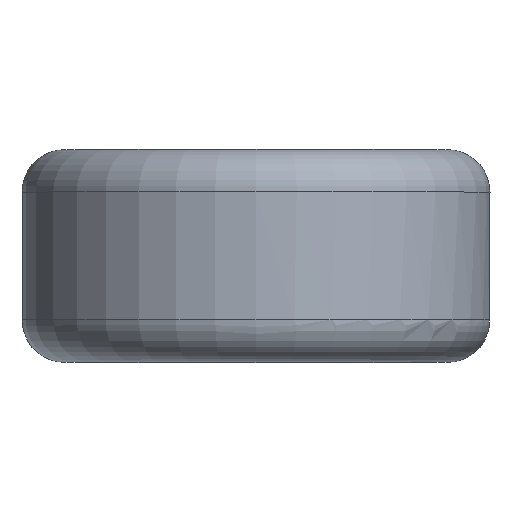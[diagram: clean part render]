
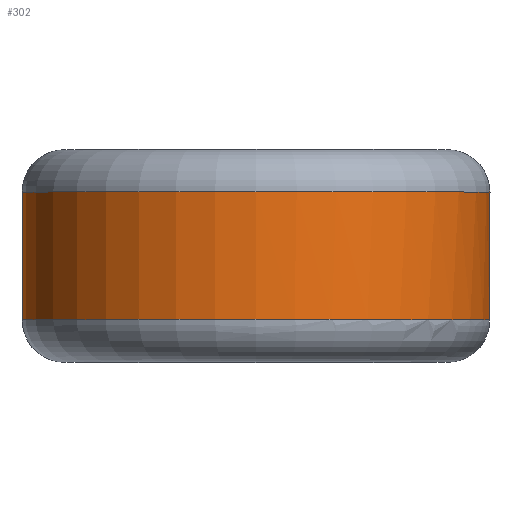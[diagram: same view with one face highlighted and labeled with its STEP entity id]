
A CAD part, top view. The second image highlights one B-rep face of the part: STEP entity #302.
In plain terms, the highlighted cylindrical face has radius 5.5 mm (diameter 11 mm), a full revolution.
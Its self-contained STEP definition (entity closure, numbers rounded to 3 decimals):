
#24=B_SPLINE_CURVE_WITH_KNOTS('',3,(#1050,#1051,#1052,#1053,#1054,#1055,
#1056,#1057,#1058,#1059),.UNSPECIFIED.,.F.,.F.,(4,1,1,1,1,1,1,4),(-0.212,
-0.182,-0.151,-0.121,-0.091,
-0.061,-0.03,0.),.UNSPECIFIED.);
#26=B_SPLINE_CURVE_WITH_KNOTS('',3,(#1127,#1128,#1129,#1130,#1131,#1132,
#1133,#1134,#1135,#1136),.UNSPECIFIED.,.F.,.F.,(4,1,1,1,1,1,1,4),(-0.212,
-0.182,-0.151,-0.121,-0.091,
-0.061,-0.03,0.),.UNSPECIFIED.);
#72=FACE_OUTER_BOUND('',#92,.T.);
#92=EDGE_LOOP('',(#241,#242,#243,#244,#245,#246,#247,#248,#249,#250));
#105=LINE('',#1121,#108);
#108=VECTOR('',#407,5.5);
#120=CIRCLE('',#347,5.5);
#121=CIRCLE('',#348,5.5);
#122=CIRCLE('',#349,5.5);
#123=CIRCLE('',#351,5.5);
#124=CIRCLE('',#352,5.5);
#125=CIRCLE('',#353,5.5);
#143=VERTEX_POINT('',#1046);
#144=VERTEX_POINT('',#1048);
#147=VERTEX_POINT('',#1113);
#148=VERTEX_POINT('',#1116);
#149=VERTEX_POINT('',#1120);
#150=VERTEX_POINT('',#1122);
#151=VERTEX_POINT('',#1124);
#152=VERTEX_POINT('',#1126);
#176=EDGE_CURVE('',#143,#144,#24,.T.);
#181=EDGE_CURVE('',#144,#147,#120,.T.);
#182=EDGE_CURVE('',#148,#143,#121,.T.);
#183=EDGE_CURVE('',#147,#148,#122,.T.);
#184=EDGE_CURVE('',#148,#149,#105,.T.);
#185=EDGE_CURVE('',#149,#150,#123,.T.);
#186=EDGE_CURVE('',#150,#151,#124,.T.);
#187=EDGE_CURVE('',#151,#152,#26,.T.);
#188=EDGE_CURVE('',#152,#149,#125,.T.);
#241=ORIENTED_EDGE('',*,*,#176,.T.);
#242=ORIENTED_EDGE('',*,*,#181,.T.);
#243=ORIENTED_EDGE('',*,*,#183,.T.);
#244=ORIENTED_EDGE('',*,*,#184,.T.);
#245=ORIENTED_EDGE('',*,*,#185,.T.);
#246=ORIENTED_EDGE('',*,*,#186,.T.);
#247=ORIENTED_EDGE('',*,*,#187,.T.);
#248=ORIENTED_EDGE('',*,*,#188,.T.);
#249=ORIENTED_EDGE('',*,*,#184,.F.);
#250=ORIENTED_EDGE('',*,*,#182,.T.);
#292=CYLINDRICAL_SURFACE('',#350,5.5);
#302=ADVANCED_FACE('',(#72),#292,.T.);
#347=AXIS2_PLACEMENT_3D('',#1115,#399,#400);
#348=AXIS2_PLACEMENT_3D('',#1117,#401,#402);
#349=AXIS2_PLACEMENT_3D('',#1118,#403,#404);
#350=AXIS2_PLACEMENT_3D('',#1119,#405,#406);
#351=AXIS2_PLACEMENT_3D('',#1123,#408,#409);
#352=AXIS2_PLACEMENT_3D('',#1125,#410,#411);
#353=AXIS2_PLACEMENT_3D('',#1137,#412,#413);
#399=DIRECTION('center_axis',(0.,-1.,0.));
#400=DIRECTION('ref_axis',(-1.,0.,0.));
#401=DIRECTION('center_axis',(0.,-1.,0.));
#402=DIRECTION('ref_axis',(-1.,0.,0.));
#403=DIRECTION('center_axis',(0.,-1.,0.));
#404=DIRECTION('ref_axis',(-1.,0.,0.));
#405=DIRECTION('center_axis',(0.,-1.,0.));
#406=DIRECTION('ref_axis',(1.,0.,0.));
#407=DIRECTION('',(0.,-1.,0.));
#408=DIRECTION('center_axis',(0.,1.,0.));
#409=DIRECTION('ref_axis',(-1.,0.,0.));
#410=DIRECTION('center_axis',(0.,1.,0.));
#411=DIRECTION('ref_axis',(-1.,0.,0.));
#412=DIRECTION('center_axis',(0.,1.,0.));
#413=DIRECTION('ref_axis',(-1.,0.,0.));
#1046=CARTESIAN_POINT('',(-4.04,1.5,-3.732));
#1048=CARTESIAN_POINT('',(-3.265,1.5,-4.426));
#1050=CARTESIAN_POINT('Ctrl Pts',(-4.04,1.5,-3.732));
#1051=CARTESIAN_POINT('Ctrl Pts',(-4.06,1.404,-3.71));
#1052=CARTESIAN_POINT('Ctrl Pts',(-4.067,1.195,-3.703));
#1053=CARTESIAN_POINT('Ctrl Pts',(-3.971,0.917,-3.808));
#1054=CARTESIAN_POINT('Ctrl Pts',(-3.785,0.753,-3.994));
#1055=CARTESIAN_POINT('Ctrl Pts',(-3.555,0.754,-4.201));
#1056=CARTESIAN_POINT('Ctrl Pts',(-3.349,0.918,-4.364));
#1057=CARTESIAN_POINT('Ctrl Pts',(-3.232,1.195,-4.45));
#1058=CARTESIAN_POINT('Ctrl Pts',(-3.24,1.404,-4.444));
#1059=CARTESIAN_POINT('Ctrl Pts',(-3.265,1.5,-4.426));
#1113=CARTESIAN_POINT('',(0.,1.5,-5.5));
#1115=CARTESIAN_POINT('Origin',(0.,1.5,0.));
#1116=CARTESIAN_POINT('',(-5.5,1.5,0.));
#1117=CARTESIAN_POINT('Origin',(0.,1.5,0.));
#1118=CARTESIAN_POINT('Origin',(0.,1.5,0.));
#1119=CARTESIAN_POINT('Origin',(0.,0.,0.));
#1120=CARTESIAN_POINT('',(-5.5,-1.5,0.));
#1121=CARTESIAN_POINT('',(-5.5,0.,0.));
#1122=CARTESIAN_POINT('',(0.,-1.5,5.5));
#1123=CARTESIAN_POINT('Origin',(0.,-1.5,0.));
#1124=CARTESIAN_POINT('',(4.04,-1.5,-3.732));
#1125=CARTESIAN_POINT('Origin',(0.,-1.5,0.));
#1126=CARTESIAN_POINT('',(3.265,-1.5,-4.426));
#1127=CARTESIAN_POINT('Ctrl Pts',(4.04,-1.5,-3.732));
#1128=CARTESIAN_POINT('Ctrl Pts',(4.06,-1.404,-3.71));
#1129=CARTESIAN_POINT('Ctrl Pts',(4.067,-1.195,-3.703));
#1130=CARTESIAN_POINT('Ctrl Pts',(3.971,-0.917,-3.808));
#1131=CARTESIAN_POINT('Ctrl Pts',(3.785,-0.753,-3.994));
#1132=CARTESIAN_POINT('Ctrl Pts',(3.555,-0.754,-4.201));
#1133=CARTESIAN_POINT('Ctrl Pts',(3.349,-0.918,-4.364));
#1134=CARTESIAN_POINT('Ctrl Pts',(3.232,-1.195,-4.45));
#1135=CARTESIAN_POINT('Ctrl Pts',(3.24,-1.404,-4.444));
#1136=CARTESIAN_POINT('Ctrl Pts',(3.265,-1.5,-4.426));
#1137=CARTESIAN_POINT('Origin',(0.,-1.5,0.));
